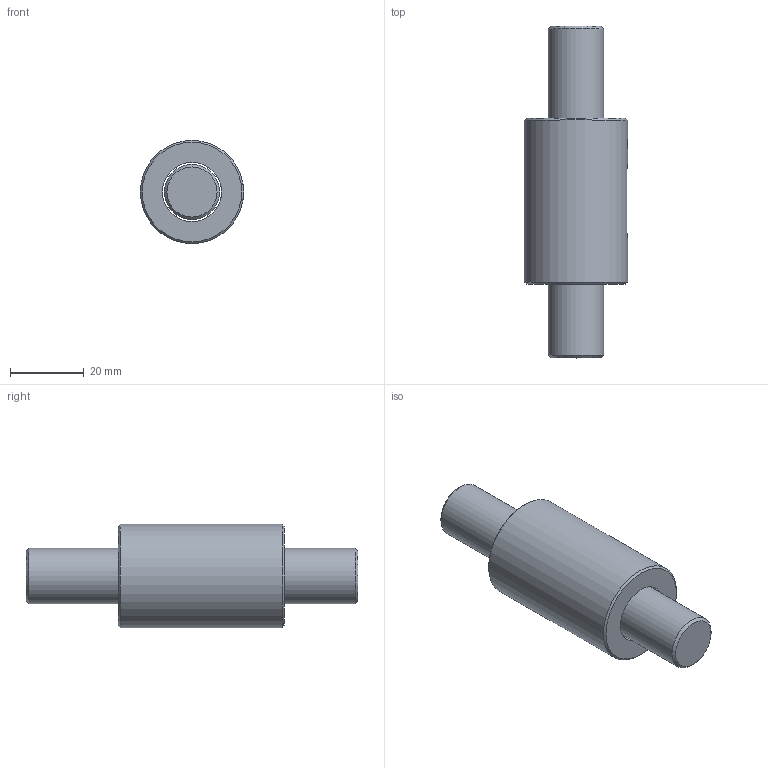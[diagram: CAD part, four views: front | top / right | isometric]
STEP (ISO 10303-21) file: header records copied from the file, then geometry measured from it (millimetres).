
FILE_DESCRIPTION (( 'STEP AP203' ), '1' );
FILE_NAME ('SCNH1616.STEP', '2023-07-12T06:01:18', ( '' ), ( '' ), 'SwSTEP 2.0', 'SolidWorks 2022', '' );
FILE_SCHEMA (( 'CONFIG_CONTROL_DESIGN' ));
Length unit declared in the file: millimetre
Products named in the file (1): SCNH1616
Bounding box: 28 x 90 x 28 mm (x, y, z)
Volume: 34200.5 mm3; surface area: 11722.7 mm2
Topology: 2 solids, 2 shells, 18 faces, 41 edges, 27 vertices
Faces by surface type: plane 7, cylinder 5, cone 4, bspline 2
Full cylindrical faces by diameter (mm): 15 x1, 16 x1, 28 x1
Entity records: 936 total; most frequent: CARTESIAN_POINT 511, DIRECTION 68, ORIENTED_EDGE 58, EDGE_LOOP 30, EDGE_CURVE 29, AXIS2_PLACEMENT_3D 29, VERTEX_POINT 23, FACE_OUTER_BOUND 21
